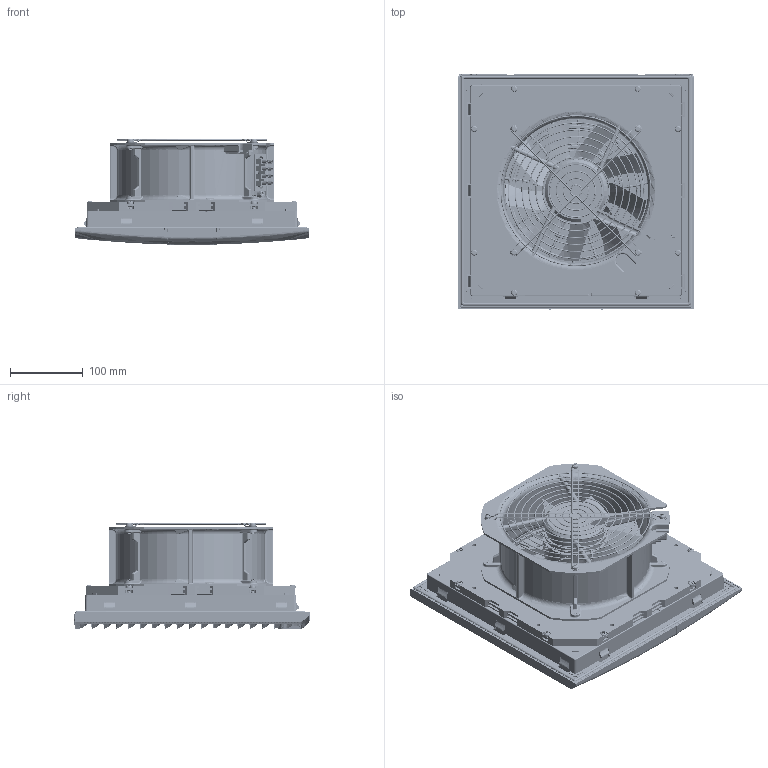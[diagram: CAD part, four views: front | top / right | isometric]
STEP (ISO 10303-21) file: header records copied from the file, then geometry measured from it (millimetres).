
FILE_DESCRIPTION(/* description */ (''),/* implementation_level */ '2;1');
FILE_NAME(/* name */ 'LK3243-2.stp',/* time_stamp */ '2019-05-16T09:00:06+08:00',/* author */ (''),/* organization */ (''),/* preprocessor_version */ 'ST-DEVELOPER v14',/* originating_system */ 'SIEMENS PLM Software NX 8.0',/* authorisation */ '');
FILE_SCHEMA (('AUTOMOTIVE_DESIGN { 1 0 10303 214 3 1 1 1 }'));
Products named in the file (1): Admi170C7B08klcw
Bounding box: 322.5 x 322.91 x 145.99 mm (x, y, z)
Volume: 2516203.8 mm3; surface area: 1282856.6 mm2
Topology: 27 solids, 27 shells, 7064 faces, 20870 edges, 13585 vertices
Faces by surface type: plane 2029, bspline 1421, cylinder 1125, sphere 885, cone 768, torus 617, extrusion 219
Full cylindrical faces by diameter (mm): 0.681 x1, 1.75 x24, 3.5 x16, 4.2 x8, 4.3 x16, 4.5 x23, 4.9 x4, 5 x1, 5.4 x24, 5.5 x8, 5.6 x2, 8 x1, 8.5 x16, 9 x17, 9.7 x3, 43 x1, 52 x1, 80 x1, 82 x1, 86 x2, 198 x1
Entity records: 390625 total; most frequent: CARTESIAN_POINT 234366, ORIENTED_EDGE 35622, DIRECTION 25066, EDGE_CURVE 17811, VERTEX_POINT 11779, AXIS2_PLACEMENT_3D 9926, EDGE_LOOP 8588, B_SPLINE_CURVE_WITH_KNOTS 8459
